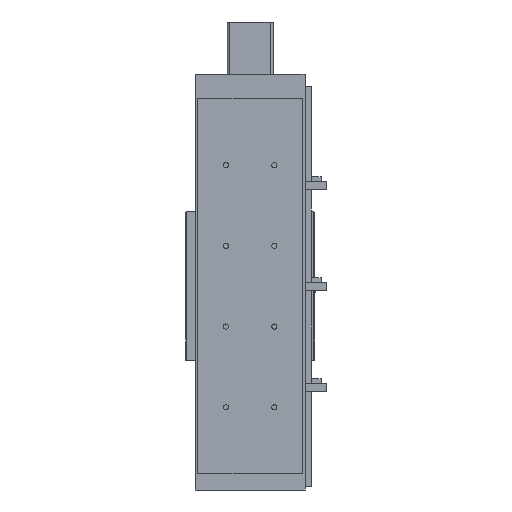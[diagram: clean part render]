
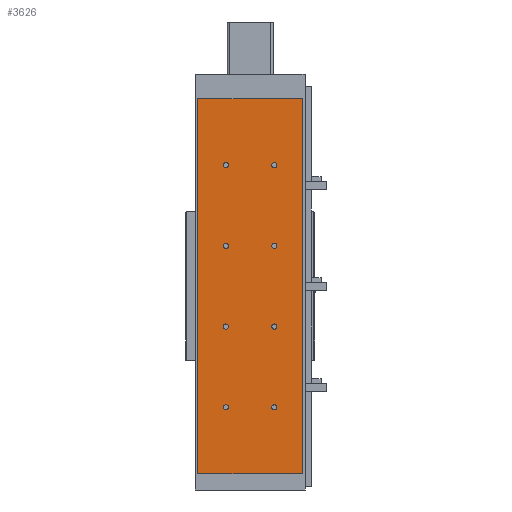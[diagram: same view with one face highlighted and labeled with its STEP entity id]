
A CAD part, front view. The second image highlights one B-rep face of the part: STEP entity #3626.
In plain terms, the highlighted planar face has unit normal (0, -1, 0).
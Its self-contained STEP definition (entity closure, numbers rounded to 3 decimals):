
#2145=CARTESIAN_POINT('',(-33.25,0.0,382.5));
#2146=VERTEX_POINT('',#2145);
#2147=CARTESIAN_POINT('',(-30.,0.0,382.5));
#2148=DIRECTION('',(0.0,1.0,0.0));
#2149=DIRECTION('',(1.0,0.0,0.0));
#2150=AXIS2_PLACEMENT_3D('',#2147,#2148,#2149);
#2151=CIRCLE('',#2150,3.25);
#2152=EDGE_CURVE('',#2146,#2146,#2151,.T.);
#2324=CARTESIAN_POINT('',(26.75,0.0,382.5));
#2325=VERTEX_POINT('',#2324);
#2326=CARTESIAN_POINT('',(30.,0.0,382.5));
#2327=DIRECTION('',(0.0,1.0,0.0));
#2328=DIRECTION('',(1.0,0.0,0.0));
#2329=AXIS2_PLACEMENT_3D('',#2326,#2327,#2328);
#2330=CIRCLE('',#2329,3.25);
#2331=EDGE_CURVE('',#2325,#2325,#2330,.T.);
#2365=CARTESIAN_POINT('',(-33.25,0.0,182.5));
#2366=VERTEX_POINT('',#2365);
#2367=CARTESIAN_POINT('',(-30.,0.0,182.5));
#2368=DIRECTION('',(0.0,1.0,0.0));
#2369=DIRECTION('',(1.0,0.0,0.0));
#2370=AXIS2_PLACEMENT_3D('',#2367,#2368,#2369);
#2371=CIRCLE('',#2370,3.25);
#2372=EDGE_CURVE('',#2366,#2366,#2371,.T.);
#2544=CARTESIAN_POINT('',(26.75,0.0,182.5));
#2545=VERTEX_POINT('',#2544);
#2546=CARTESIAN_POINT('',(30.,0.0,182.5));
#2547=DIRECTION('',(0.0,1.0,0.0));
#2548=DIRECTION('',(1.0,0.0,0.0));
#2549=AXIS2_PLACEMENT_3D('',#2546,#2547,#2548);
#2550=CIRCLE('',#2549,3.25);
#2551=EDGE_CURVE('',#2545,#2545,#2550,.T.);
#2585=CARTESIAN_POINT('',(-33.25,0.0,82.5));
#2586=VERTEX_POINT('',#2585);
#2587=CARTESIAN_POINT('',(-30.,0.0,82.5));
#2588=DIRECTION('',(0.0,1.0,0.0));
#2589=DIRECTION('',(1.0,0.0,0.0));
#2590=AXIS2_PLACEMENT_3D('',#2587,#2588,#2589);
#2591=CIRCLE('',#2590,3.25);
#2592=EDGE_CURVE('',#2586,#2586,#2591,.T.);
#2764=CARTESIAN_POINT('',(26.75,0.0,82.5));
#2765=VERTEX_POINT('',#2764);
#2766=CARTESIAN_POINT('',(30.,0.0,82.5));
#2767=DIRECTION('',(0.0,1.0,0.0));
#2768=DIRECTION('',(1.0,0.0,0.0));
#2769=AXIS2_PLACEMENT_3D('',#2766,#2767,#2768);
#2770=CIRCLE('',#2769,3.25);
#2771=EDGE_CURVE('',#2765,#2765,#2770,.T.);
#2874=CARTESIAN_POINT('',(26.75,0.0,282.5));
#2875=VERTEX_POINT('',#2874);
#2876=CARTESIAN_POINT('',(30.,0.0,282.5));
#2877=DIRECTION('',(0.0,1.0,0.0));
#2878=DIRECTION('',(1.0,0.0,0.0));
#2879=AXIS2_PLACEMENT_3D('',#2876,#2877,#2878);
#2880=CIRCLE('',#2879,3.25);
#2881=EDGE_CURVE('',#2875,#2875,#2880,.T.);
#2984=CARTESIAN_POINT('',(-33.25,0.0,282.5));
#2985=VERTEX_POINT('',#2984);
#2986=CARTESIAN_POINT('',(-30.,0.0,282.5));
#2987=DIRECTION('',(0.0,1.0,0.0));
#2988=DIRECTION('',(1.0,0.0,0.0));
#2989=AXIS2_PLACEMENT_3D('',#2986,#2987,#2988);
#2990=CIRCLE('',#2989,3.25);
#2991=EDGE_CURVE('',#2985,#2985,#2990,.T.);
#3318=CARTESIAN_POINT('',(65.0,0.0,0.0));
#3319=VERTEX_POINT('',#3318);
#3326=CARTESIAN_POINT('',(-65.0,0.0,0.0));
#3327=VERTEX_POINT('',#3326);
#3328=CARTESIAN_POINT('',(-65.0,0.0,0.0));
#3329=DIRECTION('',(1.0,0.0,0.0));
#3330=VECTOR('',#3329,130.0);
#3331=LINE('',#3328,#3330);
#3332=EDGE_CURVE('',#3327,#3319,#3331,.T.);
#3522=CARTESIAN_POINT('',(-65.0,0.0,465.0));
#3523=VERTEX_POINT('',#3522);
#3530=CARTESIAN_POINT('',(65.0,0.0,465.0));
#3531=VERTEX_POINT('',#3530);
#3532=CARTESIAN_POINT('',(65.0,0.0,465.0));
#3533=DIRECTION('',(-1.0,0.0,0.0));
#3534=VECTOR('',#3533,130.0);
#3535=LINE('',#3532,#3534);
#3536=EDGE_CURVE('',#3531,#3523,#3535,.T.);
#3559=CARTESIAN_POINT('',(-65.0,0.0,0.0));
#3560=DIRECTION('',(0.0,0.0,1.0));
#3561=VECTOR('',#3560,465.0);
#3562=LINE('',#3559,#3561);
#3563=EDGE_CURVE('',#3327,#3523,#3562,.T.);
#3581=CARTESIAN_POINT('',(65.0,0.0,0.0));
#3582=DIRECTION('',(0.0,0.0,1.0));
#3583=VECTOR('',#3582,465.0);
#3584=LINE('',#3581,#3583);
#3585=EDGE_CURVE('',#3319,#3531,#3584,.T.);
#3591=CARTESIAN_POINT('',(65.0,0.0,0.0));
#3592=DIRECTION('',(0.0,-1.0,0.0));
#3593=DIRECTION('',(0.0,0.0,-1.0));
#3594=AXIS2_PLACEMENT_3D('',#3591,#3592,#3593);
#3595=PLANE('',#3594);
#3596=ORIENTED_EDGE('',*,*,#3536,.T.);
#3597=ORIENTED_EDGE('',*,*,#3563,.F.);
#3598=ORIENTED_EDGE('',*,*,#3332,.T.);
#3599=ORIENTED_EDGE('',*,*,#3585,.T.);
#3600=EDGE_LOOP('',(#3596,#3597,#3598,#3599));
#3601=FACE_OUTER_BOUND('',#3600,.T.);
#3602=ORIENTED_EDGE('',*,*,#2152,.T.);
#3603=EDGE_LOOP('',(#3602));
#3604=FACE_BOUND('',#3603,.T.);
#3605=ORIENTED_EDGE('',*,*,#2331,.T.);
#3606=EDGE_LOOP('',(#3605));
#3607=FACE_BOUND('',#3606,.T.);
#3608=ORIENTED_EDGE('',*,*,#2372,.T.);
#3609=EDGE_LOOP('',(#3608));
#3610=FACE_BOUND('',#3609,.T.);
#3611=ORIENTED_EDGE('',*,*,#2551,.T.);
#3612=EDGE_LOOP('',(#3611));
#3613=FACE_BOUND('',#3612,.T.);
#3614=ORIENTED_EDGE('',*,*,#2592,.T.);
#3615=EDGE_LOOP('',(#3614));
#3616=FACE_BOUND('',#3615,.T.);
#3617=ORIENTED_EDGE('',*,*,#2771,.T.);
#3618=EDGE_LOOP('',(#3617));
#3619=FACE_BOUND('',#3618,.T.);
#3620=ORIENTED_EDGE('',*,*,#2881,.T.);
#3621=EDGE_LOOP('',(#3620));
#3622=FACE_BOUND('',#3621,.T.);
#3623=ORIENTED_EDGE('',*,*,#2991,.T.);
#3624=EDGE_LOOP('',(#3623));
#3625=FACE_BOUND('',#3624,.T.);
#3626=ADVANCED_FACE('',(#3601,#3604,#3607,#3610,#3613,#3616,#3619,#3622,#3625),#3595,.T.);
